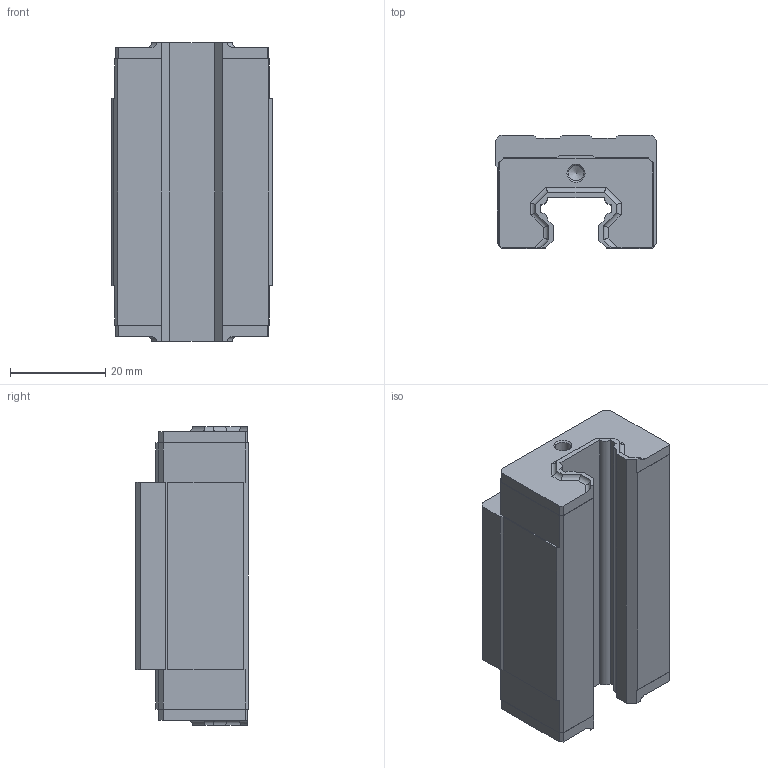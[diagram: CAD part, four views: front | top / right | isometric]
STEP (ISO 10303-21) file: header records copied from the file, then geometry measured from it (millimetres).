
FILE_DESCRIPTION(/* description */ (''),/* implementation_level */ '2;1');
FILE_NAME(/* name */ 'C:\Users\daviddillkoetter\ownCloud\Kamp und Kötter\Artikel\KPN_Profilführungen\Step\KPNW-15X-BS.stp',/* time_stamp */ '2021-01-27T16:43:50+01:00',/* author */ ('daviddillkoetter'),/* organization */ (''),/* preprocessor_version */ 'ST-DEVELOPER v18.1',/* originating_system */ 'Autodesk Inventor 2021',/* authorisation */ '');
FILE_SCHEMA (('AUTOMOTIVE_DESIGN { 1 0 10303 214 3 1 1 }'));
Length unit declared in the file: millimetre
Products named in the file (1): KPNW_F
Bounding box: 34 x 23.7 x 62.8 mm (x, y, z)
Volume: 36409.3 mm3; surface area: 10148.2 mm2
Topology: 1 solids, 1 shells, 116 faces, 336 edges, 222 vertices
Faces by surface type: plane 72, cylinder 32, cone 12
Full cylindrical faces by diameter (mm): 3.242 x6
Entity records: 3912 total; most frequent: CARTESIAN_POINT 669, ORIENTED_EDGE 660, DIRECTION 620, EDGE_CURVE 330, LINE 274, VECTOR 274, VERTEX_POINT 222, AXIS2_PLACEMENT_3D 173
